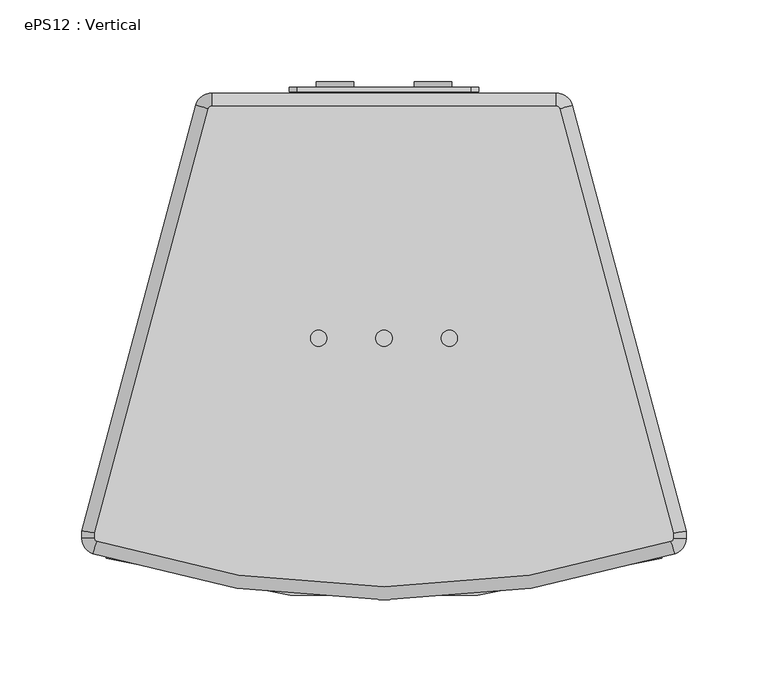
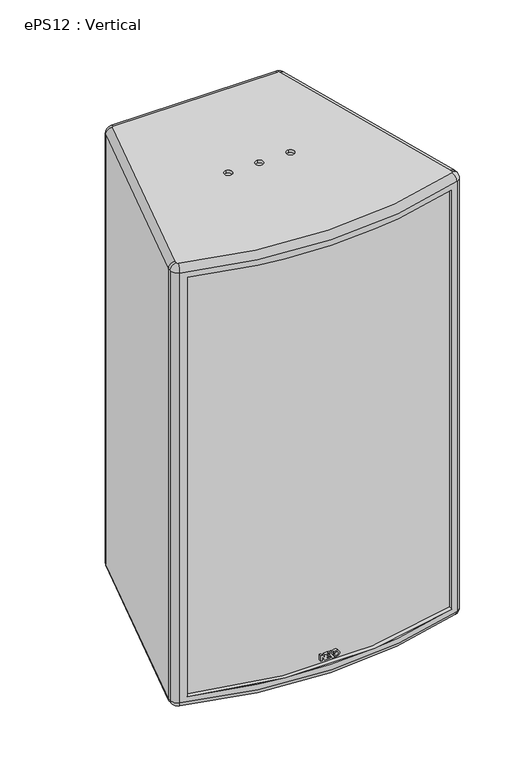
"""IFC4 building model written with IfcOpenShell, lengths in millimetres: proxy geometry, ePS12 : Vertical."""

from ifc_helpers import new_model, si_unit, point, frame, frame_2d, origin, place, context, project, spatial, polyline, circle_curve, ellipse_curve, trimmed, segment, composite_curve, outline, extrude, source, transform, mapped, element, save
from ifc_brep_helpers import plane_surface, cylinder_surface, revolved_surface, advanced_brep


def eps12_vertical_731aaa63(model_context):
    return source(origin(), model_context, "Body", "SolidModel", [
        extrude(outline(polyline([(-270.5590531, -11.9363528), (-277.8388202, -11.9363528), (-277.8388202, -10.0439855), (-273.6734899, -10.0439855), (-277.8388202, -7.2688886), (-277.8388202, -0.4179789), (-275.963849, 0.9005934), (-274.3643156, -0.1627837), (-276.2361557, -1.5323263), (-276.2361557, -4.5659556), (-274.9818684, -4.5659556), (-274.9818684, -2.2828427), (-273.3791381, -2.2828427), (-273.3791381, -4.5659556), (-272.1626349, -4.5659556), (-272.1626349, -2.1588809), (-271.3626349, -2.1588809), (-270.5599046, -2.6925396), (-270.5599046, -6.9609157), (-275.0099607, -6.9706073), (-270.5590531, -9.9098734), (-270.5590531, -11.9363528)])), frame((0.0, -157.930519, 0.0), z_axis=(0.0, 1.0, 0.0), x_axis=(0.0, 0.0, 1.0)), (0.0, 0.0, 1.0), 3.5087945),
        extrude(outline(polyline([(-270.5590531, -2.0512245), (-278.8, 3.4273947), (-278.8, 5.6205974), (-270.5590531, 0.1419782), (-270.5590531, -2.0512245)])), frame((0.0, -157.930519, 0.0), z_axis=(0.0, 1.0, 0.0), x_axis=(0.0, 0.0, 1.0)), (0.0, 0.0, 1.0), 3.5087945),
        extrude(outline(polyline([(-270.5590531, 4.6894095), (-270.5590531, 2.362619), (-271.8270101, 1.6148247), (-273.457904, 2.6990504), (-270.5590531, 4.6894095)])), frame((0.0, -157.930519, 0.0), z_axis=(0.0, 1.0, 0.0), x_axis=(0.0, 0.0, 1.0)), (0.0, 0.0, 1.0), 3.5087945),
        extrude(outline(composite_curve([segment(trimmed(circle_curve(frame_2d((-274.2298911, 8.0750207)), 3.9406238), [point((-274.2298911, 4.1343969))], [point((-274.2298911, 12.0156446))], False, "CARTESIAN"), True, "CONTINUOUS"), segment(trimmed(circle_curve(frame_2d((-274.2298911, 8.0750207)), 3.9406238), [point((-274.2298911, 12.0156446))], [point((-274.2298911, 4.1343969))], False, "CARTESIAN"), True, "CONTINUOUS")], self_intersect=False), holes=[composite_curve([segment(trimmed(circle_curve(frame_2d((-274.2298911, 8.0750207)), 2.0681078), [point((-274.2298911, 6.0069129))], [point((-274.2298911, 10.1431285))], True, "CARTESIAN"), True, "CONTINUOUS"), segment(trimmed(circle_curve(frame_2d((-274.2298911, 8.0750207)), 2.0681078), [point((-274.2298911, 10.1431285))], [point((-274.2298911, 6.0069129))], True, "CARTESIAN"), True, "CONTINUOUS")], self_intersect=False)]), frame((0.0, -157.930519, 0.0), z_axis=(0.0, 1.0, 0.0), x_axis=(0.0, 0.0, 1.0)), (0.0, 0.0, 1.0), 3.5087945),
        extrude(outline(composite_curve([segment(trimmed(circle_curve(frame_2d((-262.5, 30.0)), 11.4515227), [point((-262.5, 41.4515227))], [point((-262.5, 18.5484773))], False, "CARTESIAN"), True, "CONTINUOUS"), segment(trimmed(circle_curve(frame_2d((-262.5, 30.0)), 11.4515227), [point((-262.5, 18.5484773))], [point((-262.5, 41.4515227))], False, "CARTESIAN"), True, "CONTINUOUS")], self_intersect=False), holes=[composite_curve([segment(trimmed(circle_curve(frame_2d((-262.5, 30.0)), 5.0), [point((-262.5, 35.0))], [point((-262.5, 25.0))], True, "CARTESIAN"), True, "CONTINUOUS"), segment(trimmed(circle_curve(frame_2d((-262.5, 30.0)), 5.0), [point((-262.5, 25.0))], [point((-262.5, 35.0))], True, "CARTESIAN"), True, "CONTINUOUS")], self_intersect=False)]), frame((0.0, 153.5947354, 0.0), z_axis=(0.0, 1.0, 0.0), x_axis=(0.0, 0.0, 1.0)), (0.0, 0.0, 1.0), 3.4052646),
        extrude(outline(composite_curve([segment(trimmed(circle_curve(frame_2d((-262.5, -30.0)), 11.4515227), [point((-262.5, -18.5484773))], [point((-262.5, -41.4515227))], False, "CARTESIAN"), True, "CONTINUOUS"), segment(trimmed(circle_curve(frame_2d((-262.5, -30.0)), 11.4515227), [point((-262.5, -41.4515227))], [point((-262.5, -18.5484773))], False, "CARTESIAN"), True, "CONTINUOUS")], self_intersect=False), holes=[composite_curve([segment(trimmed(circle_curve(frame_2d((-262.5, -30.0)), 5.0), [point((-262.5, -25.0))], [point((-262.5, -35.0))], True, "CARTESIAN"), True, "CONTINUOUS"), segment(trimmed(circle_curve(frame_2d((-262.5, -30.0)), 5.0), [point((-262.5, -35.0))], [point((-262.5, -25.0))], True, "CARTESIAN"), True, "CONTINUOUS")], self_intersect=False)]), frame((0.0, 153.5947354, 0.0), z_axis=(0.0, 1.0, 0.0), x_axis=(0.0, 0.0, 1.0)), (0.0, 0.0, 1.0), 3.4052646),
        extrude(outline(composite_curve([segment(polyline([(-243.5, 53.0), (-243.5, -53.0)]), True, "CONTINUOUS"), segment(trimmed(circle_curve(frame_2d((-248.5, -53.0)), 5.0), [point((-243.5, -53.0))], [point((-248.5, -58.0))], False, "CARTESIAN"), True, "CONTINUOUS"), segment(polyline([(-248.5, -58.0), (-276.5, -58.0)]), True, "CONTINUOUS"), segment(trimmed(circle_curve(frame_2d((-276.5, -53.0)), 5.0), [point((-276.5, -58.0))], [point((-281.5, -53.0))], False, "CARTESIAN"), True, "CONTINUOUS"), segment(polyline([(-281.5, -53.0), (-281.5, 53.0)]), True, "CONTINUOUS"), segment(trimmed(circle_curve(frame_2d((-276.5, 53.0)), 5.0), [point((-281.5, 53.0))], [point((-276.5, 58.0))], False, "CARTESIAN"), True, "CONTINUOUS"), segment(polyline([(-276.5, 58.0), (-248.5, 58.0)]), True, "CONTINUOUS"), segment(trimmed(circle_curve(frame_2d((-248.5, 53.0)), 5.0), [point((-248.5, 58.0))], [point((-243.5, 53.0))], False, "CARTESIAN"), True, "CONTINUOUS")], self_intersect=False)), frame((0.0, 151.0947354, 0.0), z_axis=(0.0, 1.0, 0.0), x_axis=(0.0, 0.0, 1.0)), (0.0, 0.0, 1.0), 2.5),
        advanced_brep(
        [(107.4481982, 140.4698959, 300.0), (105.5163465, 141.9522578, 300.0), (-105.5163465, 141.9522578, 300.0), (-107.4481982, 140.4698959, 300.0), (-177.0, -119.1009622, 300.0), (-177.0, -122.3259262, 300.0), (-175.6180478, -124.2280348, 300.0), (175.6180478, -124.2280348, 300.0), (177.0, -122.3259262, 300.0), (177.0, -119.1009622, 300.0), (0.0, -5.0, 300.0), (0.0, 5.0, 300.0), (-40.0, -5.0, 300.0), (-40.0, 5.0, 300.0), (40.0, -5.0, 300.0), (40.0, 5.0, 300.0), (105.5163465, 141.9522578, -300.0), (107.4481982, 140.4698959, -300.0), (177.0, -119.1009622, -300.0), (177.0, -122.3259262, -300.0), (175.6180478, -124.2280348, -300.0), (-175.6180478, -124.2280348, -300.0), (-177.0, -122.3259262, -300.0), (-177.0, -119.1009622, -300.0), (-107.4481982, 140.4698959, -300.0), (-105.5163465, 141.9522578, -300.0), (0.0, 5.0, -300.0), (0.0, -5.0, -300.0), (-40.0, 5.0, -300.0), (-40.0, -5.0, -300.0), (40.0, 5.0, -300.0), (40.0, -5.0, -300.0), (0.0, 5.0, 296.0), (0.0, -5.0, 296.0), (-40.0, 5.0, 296.0), (-40.0, -5.0, 296.0), (40.0, 5.0, 296.0), (40.0, -5.0, 296.0), (-170.0, -134.3995103, 285.0), (-170.0, -129.2156738, 285.0), (170.0, -129.2156738, 285.0), (170.0, -134.3995103, 285.0), (170.0, -134.3995103, -285.0), (170.0, -129.2156738, -285.0), (-170.0, -129.2156738, -285.0), (-170.0, -134.3995103, -285.0), (0.0, 5.0, -296.0), (0.0, -5.0, -296.0), (-40.0, 5.0, -296.0), (-40.0, -5.0, -296.0), (40.0, 5.0, -296.0), (40.0, -5.0, -296.0), (-29.3432823, 145.0, 0.0), (-40.6566026, 145.0, 0.0), (40.6567177, 145.0, 0.0), (29.3433974, 145.0, 0.0), (-29.3432823, 145.0, 70.0), (-40.6566026, 145.0, 70.0), (-40.6566026, 149.9522578, 0.0), (-29.3432823, 149.9522578, 0.0), (29.3433974, 149.9522578, 0.0), (40.6567177, 149.9522578, 0.0), (-105.5163465, 149.9522578, 292.0), (105.5163465, 149.9522578, 292.0), (105.5163465, 149.9522578, -292.0000078), (-105.5163465, 149.9522578, -292.0), (-40.6566026, 149.9522578, 70.0), (-29.3432823, 149.9522578, 70.0), (-115.1756048, 142.5404482, 292.0), (-115.1756048, 142.5404482, -292.0), (-185.0, -118.0477422, 292.0), (-185.0, -118.0477422, -292.0), (-185.0, -122.3259262, 292.0), (-185.0, -122.3259262, -292.0), (178.0902391, -131.8364689, 292.0), (-178.0902391, -131.8364689, 292.0), (-178.0902391, -131.8364689, -292.0000037), (178.0902391, -131.8364689, -292.0), (185.0, -118.0477422, 292.0), (185.0, -122.3259262, 292.0), (185.0, -122.3259262, -292.0), (185.0, -118.0477422, -292.0), (115.1756048, 142.5404482, 292.0), (115.1756048, 142.5404482, -292.0)],
        [
            (0, 1, circle_curve(frame((105.5163465, 139.9522578, 300.0), z_axis=(0.0, 0.0, 1.0), x_axis=(0.0, 1.0, 0.0)), 2.0)),
            (1, 2),
            (2, 3, circle_curve(frame((-105.5163465, 139.9522578, 300.0), z_axis=(0.0, 0.0, 1.0), x_axis=(-0.9659258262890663, 0.2588190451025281, 0.0)), 2.0)),
            (3, 4),
            (4, 5),
            (5, 6, circle_curve(frame((-175.0, -122.3259262, 300.0), z_axis=(0.0, 0.0, 1.0), x_axis=(-0.3090239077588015, -0.9510542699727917, 0.0)), 2.0)),
            (6, 7, circle_curve(frame((0.0, 416.2553714, 300.0), z_axis=(0.0, 0.0, 1.0), x_axis=(0.309023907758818, -0.9510542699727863, 0.0)), 568.2992267)),
            (7, 8, circle_curve(frame((175.0, -122.3259262, 300.0), z_axis=(0.0, 0.0, 1.0), x_axis=(1.0, 0.0, 0.0)), 2.0)),
            (8, 9),
            (9, 0),
            (10, 11, circle_curve(frame((0.0, 0.0, 300.0), z_axis=(0.0, 0.0, -1.0), x_axis=(0.0, -1.0, 0.0)), 5.0)),
            (11, 10, circle_curve(frame((0.0, 0.0, 300.0), z_axis=(0.0, 0.0, -1.0), x_axis=(0.0, -1.0, 0.0)), 5.0)),
            (12, 13, circle_curve(frame((-40.0, 0.0, 300.0), z_axis=(0.0, 0.0, -1.0), x_axis=(0.0, -1.0, 0.0)), 5.0)),
            (13, 12, circle_curve(frame((-40.0, 0.0, 300.0), z_axis=(0.0, 0.0, -1.0), x_axis=(0.0, -1.0, 0.0)), 5.0)),
            (14, 15, circle_curve(frame((40.0, 0.0, 300.0), z_axis=(0.0, 0.0, -1.0), x_axis=(0.0, -1.0, 0.0)), 5.0)),
            (15, 14, circle_curve(frame((40.0, 0.0, 300.0), z_axis=(0.0, 0.0, -1.0), x_axis=(0.0, -1.0, 0.0)), 5.0)),
            (16, 17, circle_curve(frame((105.5163465, 139.9522578, -300.0), z_axis=(0.0, 0.0, -1.0), x_axis=(0.0, 1.0, 0.0)), 2.0)),
            (17, 18),
            (18, 19),
            (19, 20, circle_curve(frame((175.0, -122.3259262, -300.0), z_axis=(0.0, 0.0, -1.0), x_axis=(1.0, 0.0, 0.0)), 2.0)),
            (20, 21, circle_curve(frame((0.0, 416.2553714, -300.0), z_axis=(0.0, 0.0, -1.0), x_axis=(0.309023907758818, -0.9510542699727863, 0.0)), 568.2992267)),
            (21, 22, circle_curve(frame((-175.0, -122.3259262, -300.0), z_axis=(0.0, 0.0, -1.0), x_axis=(-0.3090239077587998, -0.9510542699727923, 0.0)), 2.0)),
            (22, 23),
            (23, 24),
            (24, 25, circle_curve(frame((-105.5163465, 139.9522578, -300.0), z_axis=(0.0, 0.0, -1.0), x_axis=(-0.9659258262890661, 0.258819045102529, 0.0)), 2.0)),
            (25, 16),
            (26, 27, circle_curve(frame((0.0, 0.0, -300.0), z_axis=(0.0, 0.0, 1.0), x_axis=(0.0, -1.0, 0.0)), 5.0)),
            (27, 26, circle_curve(frame((0.0, 0.0, -300.0), z_axis=(0.0, 0.0, 1.0), x_axis=(0.0, -1.0, 0.0)), 5.0)),
            (28, 29, circle_curve(frame((-40.0, 0.0, -300.0), z_axis=(0.0, 0.0, 1.0), x_axis=(0.0, -1.0, 0.0)), 5.0)),
            (29, 28, circle_curve(frame((-40.0, 0.0, -300.0), z_axis=(0.0, 0.0, 1.0), x_axis=(0.0, -1.0, 0.0)), 5.0)),
            (30, 31, circle_curve(frame((40.0, 0.0, -300.0), z_axis=(0.0, 0.0, 1.0), x_axis=(0.0, -1.0, 0.0)), 5.0)),
            (31, 30, circle_curve(frame((40.0, 0.0, -300.0), z_axis=(0.0, 0.0, 1.0), x_axis=(0.0, -1.0, 0.0)), 5.0)),
            (32, 33, circle_curve(frame((0.0, 0.0, 296.0), z_axis=(0.0, 0.0, 1.0), x_axis=(0.0, -1.0, 0.0)), 5.0)),
            (33, 32, circle_curve(frame((0.0, 0.0, 296.0), z_axis=(0.0, 0.0, 1.0), x_axis=(0.0, -1.0, 0.0)), 5.0)),
            (34, 35, circle_curve(frame((-40.0, 0.0, 296.0), z_axis=(0.0, 0.0, 1.0), x_axis=(0.0, -1.0, 0.0)), 5.0)),
            (35, 34, circle_curve(frame((-40.0, 0.0, 296.0), z_axis=(0.0, 0.0, 1.0), x_axis=(0.0, -1.0, 0.0)), 5.0)),
            (36, 37, circle_curve(frame((40.0, 0.0, 296.0), z_axis=(0.0, 0.0, 1.0), x_axis=(0.0, -1.0, 0.0)), 5.0)),
            (37, 36, circle_curve(frame((40.0, 0.0, 296.0), z_axis=(0.0, 0.0, 1.0), x_axis=(0.0, -1.0, 0.0)), 5.0)),
            (32, 11),
            (10, 33),
            (34, 13),
            (12, 35),
            (36, 15),
            (14, 37),
            (38, 39),
            (39, 40, circle_curve(frame((0.0, 422.7564106, 285.0), z_axis=(0.0, 0.0, 1.0), x_axis=(1.0, 0.0, 0.0)), 577.5579469)),
            (40, 41),
            (41, 38, circle_curve(frame((0.0, 416.2553714, 285.0), z_axis=(0.0, 0.0, -1.0), x_axis=(1.0, 0.0, 0.0)), 576.2992267)),
            (42, 43),
            (43, 44, circle_curve(frame((0.0, 422.7564106, -285.0), z_axis=(0.0, 0.0, -1.0), x_axis=(1.0, 0.0, 0.0)), 577.5579469)),
            (44, 45),
            (45, 42, circle_curve(frame((0.0, 416.2553714, -285.0), z_axis=(0.0, 0.0, 1.0), x_axis=(1.0, 0.0, 0.0)), 576.2992267)),
            (46, 47, circle_curve(frame((0.0, 0.0, -296.0), z_axis=(0.0, 0.0, -1.0), x_axis=(0.0, -1.0, 0.0)), 5.0)),
            (47, 46, circle_curve(frame((0.0, 0.0, -296.0), z_axis=(0.0, 0.0, -1.0), x_axis=(0.0, -1.0, 0.0)), 5.0)),
            (48, 49, circle_curve(frame((-40.0, 0.0, -296.0), z_axis=(0.0, 0.0, -1.0), x_axis=(0.0, -1.0, 0.0)), 5.0)),
            (49, 48, circle_curve(frame((-40.0, 0.0, -296.0), z_axis=(0.0, 0.0, -1.0), x_axis=(0.0, -1.0, 0.0)), 5.0)),
            (50, 51, circle_curve(frame((40.0, 0.0, -296.0), z_axis=(0.0, 0.0, -1.0), x_axis=(0.0, -1.0, 0.0)), 5.0)),
            (51, 50, circle_curve(frame((40.0, 0.0, -296.0), z_axis=(0.0, 0.0, -1.0), x_axis=(0.0, -1.0, 0.0)), 5.0)),
            (47, 27),
            (26, 46),
            (49, 29),
            (28, 48),
            (51, 31),
            (30, 50),
            (52, 53, circle_curve(frame((-34.9999424, 145.0, 0.0), z_axis=(0.0, 1.0, 0.0), x_axis=(-1.0, 0.0, 0.0)), 5.6566602)),
            (53, 52, circle_curve(frame((-34.9999424, 145.0, 0.0), z_axis=(0.0, 1.0, 0.0), x_axis=(-1.0, 0.0, 0.0)), 5.6566602)),
            (54, 55, circle_curve(frame((35.0000576, 145.0, 0.0), z_axis=(0.0, 1.0, 0.0), x_axis=(-1.0, 0.0, 0.0)), 5.6566602)),
            (55, 54, circle_curve(frame((35.0000576, 145.0, 0.0), z_axis=(0.0, 1.0, 0.0), x_axis=(-1.0, 0.0, 0.0)), 5.6566602)),
            (56, 57, circle_curve(frame((-34.9999424, 145.0, 70.0), z_axis=(0.0, 1.0, 0.0), x_axis=(-1.0, 0.0, 0.0)), 5.6566602)),
            (57, 56, circle_curve(frame((-34.9999424, 145.0, 70.0), z_axis=(0.0, 1.0, 0.0), x_axis=(-1.0, 0.0, 0.0)), 5.6566602)),
            (53, 58),
            (58, 59, circle_curve(frame((-34.9999424, 149.9522578, 0.0), z_axis=(0.0, 1.0, 0.0), x_axis=(-1.0, 0.0, 0.0)), 5.6566602)),
            (59, 52),
            (59, 58, circle_curve(frame((-34.9999424, 149.9522578, 0.0), z_axis=(0.0, 1.0, 0.0), x_axis=(-1.0, 0.0, 0.0)), 5.6566602)),
            (55, 60),
            (60, 61, circle_curve(frame((35.0000576, 149.9522578, 0.0), z_axis=(0.0, 1.0, 0.0), x_axis=(-1.0, 0.0, 0.0)), 5.6566602)),
            (61, 54),
            (61, 60, circle_curve(frame((35.0000576, 149.9522578, 0.0), z_axis=(0.0, 1.0, 0.0), x_axis=(-1.0, 0.0, 0.0)), 5.6566602)),
            (62, 63),
            (63, 64),
            (64, 65),
            (65, 62),
            (66, 67, circle_curve(frame((-34.9999424, 149.9522578, 70.0), z_axis=(0.0, -1.0, 0.0), x_axis=(-1.0, 0.0, 0.0)), 5.6566602)),
            (67, 66, circle_curve(frame((-34.9999424, 149.9522578, 70.0), z_axis=(0.0, -1.0, 0.0), x_axis=(-1.0, 0.0, 0.0)), 5.6566602)),
            (68, 62, circle_curve(frame((-105.5163465, 139.9522578, 292.0), z_axis=(0.0, 0.0, -1.0), x_axis=(1.0, 0.0, 0.0)), 10.0)),
            (65, 69, circle_curve(frame((-105.5163465, 139.9522578, -292.0), z_axis=(0.0, 0.0, 1.0), x_axis=(1.0, 0.0, 0.0)), 10.0)),
            (69, 68),
            (70, 68),
            (69, 71),
            (71, 70),
            (72, 70),
            (71, 73),
            (73, 72),
            (74, 75, circle_curve(frame((0.0, 416.2553714, 292.0), z_axis=(0.0, 0.0, -1.0), x_axis=(1.0, 0.0, 0.0)), 576.2992267)),
            (75, 76),
            (76, 77, circle_curve(frame((0.0, 416.2553714, -292.0), z_axis=(0.0, 0.0, 1.0), x_axis=(1.0, 0.0, 0.0)), 576.2992267)),
            (77, 74),
            (41, 42),
            (45, 38),
            (78, 79),
            (79, 80),
            (80, 81),
            (81, 78),
            (82, 78),
            (81, 83),
            (83, 82),
            (63, 82, circle_curve(frame((105.5163465, 139.9522578, 292.0), z_axis=(0.0, 0.0, -1.0), x_axis=(1.0, 0.0, 0.0)), 10.0)),
            (83, 64, circle_curve(frame((105.5163465, 139.9522578, -292.0), z_axis=(0.0, 0.0, 1.0), x_axis=(1.0, 0.0, 0.0)), 10.0)),
            (56, 67),
            (66, 57),
            (40, 43),
            (39, 44),
            (75, 72, circle_curve(frame((-175.0, -122.3259262, 292.0), z_axis=(0.0, 0.0, -1.0), x_axis=(1.0, 0.0, 0.0)), 10.0)),
            (73, 76, circle_curve(frame((-175.0, -122.3259262, -292.0), z_axis=(0.0, 0.0, 1.0), x_axis=(1.0, 0.0, 0.0)), 10.0)),
            (79, 74, circle_curve(frame((175.0, -122.3259262, 292.0), z_axis=(0.0, 0.0, -1.0), x_axis=(1.0, 0.0, 0.0)), 10.0)),
            (77, 80, circle_curve(frame((175.0, -122.3259262, -292.0), z_axis=(0.0, 0.0, 1.0), x_axis=(1.0, 0.0, 0.0)), 10.0)),
            (0, 82, circle_curve(frame((107.4481982, 140.4698959, 292.0), z_axis=(-0.2588190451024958, 0.9659258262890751, 0.0), x_axis=(0.9659258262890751, 0.2588190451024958, 0.0)), 8.0)),
            (63, 1, circle_curve(frame((105.5163465, 141.9522578, 292.0), z_axis=(1.0, 0.0, 0.0), x_axis=(0.0, 1.0, 0.0)), 8.0)),
            (9, 78, ellipse_curve(frame((177.0, -119.1009622, 292.0), z_axis=(-0.13052619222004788, 0.9914448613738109, 0.0), x_axis=(0.9914448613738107, 0.1305261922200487, 0.0)), 8.0690317, 8.0)),
            (8, 79, circle_curve(frame((177.0, -122.3259262, 292.0), z_axis=(0.0, 1.0, 0.0), x_axis=(1.0, 0.0, 0.0)), 8.0)),
            (7, 74, circle_curve(frame((175.6180478, -124.2280348, 292.0), z_axis=(0.951054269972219, 0.3090239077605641, 0.0), x_axis=(0.3090239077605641, -0.951054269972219, 0.0)), 8.0)),
            (6, 75, circle_curve(frame((-175.6180478, -124.2280348, 292.0), z_axis=(0.9510542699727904, -0.3090239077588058, 0.0), x_axis=(-0.3090239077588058, -0.9510542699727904, 0.0)), 8.0)),
            (5, 72, circle_curve(frame((-177.0, -122.3259262, 292.0), z_axis=(0.0, -1.0, 0.0), x_axis=(-1.0, 0.0, 0.0)), 8.0)),
            (4, 70, ellipse_curve(frame((-177.0, -119.1009622, 292.0), z_axis=(-0.13052619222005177, -0.9914448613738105, 0.0), x_axis=(-0.9914448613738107, 0.13052619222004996, 0.0)), 8.0690317, 8.0)),
            (3, 68, circle_curve(frame((-107.4481982, 140.4698959, 292.0), z_axis=(-0.2588190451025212, -0.9659258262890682, 0.0), x_axis=(-0.9659258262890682, 0.2588190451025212, 0.0)), 8.0)),
            (2, 62, circle_curve(frame((-105.5163465, 141.9522578, 292.0), z_axis=(-1.0, 0.0, 0.0), x_axis=(0.0, 1.0, 0.0)), 8.0)),
            (83, 17, circle_curve(frame((107.4481982, 140.4698959, -292.0), z_axis=(-0.25881904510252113, 0.9659258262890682, 0.0), x_axis=(0.9659258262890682, 0.25881904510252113, 0.0)), 8.0)),
            (16, 64, circle_curve(frame((105.5163465, 141.9522578, -292.0), z_axis=(1.0, 0.0, 0.0), x_axis=(0.0, 1.0, 0.0)), 8.0)),
            (81, 18, ellipse_curve(frame((177.0, -119.1009622, -292.0), z_axis=(-0.1305261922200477, 0.9914448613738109, 0.0), x_axis=(0.9914448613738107, 0.13052619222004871, 0.0)), 8.0690317, 8.0)),
            (80, 19, circle_curve(frame((177.0, -122.3259262, -292.0), z_axis=(0.0, 1.0, 0.0), x_axis=(1.0, 0.0, 0.0)), 8.0)),
            (77, 20, circle_curve(frame((175.6180478, -124.2280348, -292.0), z_axis=(0.951054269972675, 0.30902390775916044, 0.0), x_axis=(0.30902390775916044, -0.951054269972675, 0.0)), 8.0)),
            (76, 21, circle_curve(frame((-175.6180478, -124.2280348, -292.0), z_axis=(0.9510542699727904, -0.3090239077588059, 0.0), x_axis=(-0.3090239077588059, -0.9510542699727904, 0.0)), 8.0)),
            (73, 22, circle_curve(frame((-177.0, -122.3259262, -292.0), z_axis=(0.0, -0.9999999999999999, 0.0), x_axis=(-0.9999999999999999, 0.0, 0.0)), 8.0)),
            (71, 23, ellipse_curve(frame((-177.0, -119.1009622, -292.0), z_axis=(-0.13052619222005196, -0.9914448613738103, 0.0), x_axis=(-0.9914448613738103, 0.13052619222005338, 0.0)), 8.0690317, 8.0)),
            (69, 24, circle_curve(frame((-107.4481982, 140.4698959, -292.0), z_axis=(-0.2588190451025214, -0.9659258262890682, 0.0), x_axis=(-0.9659258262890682, 0.2588190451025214, 0.0)), 8.0)),
            (65, 25, circle_curve(frame((-105.5163465, 141.9522578, -292.0), z_axis=(-1.0, 0.0, 0.0), x_axis=(0.0, 1.0, 0.0)), 8.0)),
        ],
        [
            plane_surface(frame((-111.6724223, 149.9522578, 300.0), z_axis=(0.0, 0.0, 1.0), x_axis=(-1.0, 0.0, 0.0))),
            plane_surface(frame((-111.6724223, 149.9522578, -300.0), z_axis=(0.0, 0.0, -1.0), x_axis=(1.0, 0.0, 0.0))),
            plane_surface(frame((0.0, -5.0, 296.0), z_axis=(0.0, 0.0, 1.0), x_axis=(-1.0, 0.0, 0.0))),
            revolved_surface(polyline([(0.0, -5.0, 300.0), (0.0, -5.0, 296.0)]), (0.0, 0.0, 296.0), (0.0, 0.0, 1.0)),
            revolved_surface(polyline([(-40.0, -5.0, 300.0), (-40.0, -5.0, 296.0)]), (-40.0, 0.0, 300.0), (0.0, 0.0, 1.0)),
            revolved_surface(polyline([(40.0, -5.0, 300.0), (40.0, -5.0, 296.0)]), (40.0, 0.0, 300.0), (0.0, 0.0, 1.0)),
            plane_surface(frame((170.0, -134.3995103, 285.0), z_axis=(0.0, 0.0, -1.0), x_axis=(0.0, 1.0, 0.0))),
            plane_surface(frame((170.0, -134.3995103, -285.0), z_axis=(0.0, 0.0, 1.0), x_axis=(0.0, -1.0, 0.0))),
            plane_surface(frame((0.0, -5.0, -296.0), z_axis=(0.0, 0.0, -1.0), x_axis=(1.0, 0.0, 0.0))),
            revolved_surface(polyline([(0.0, -5.0, -296.0), (0.0, -5.0, -300.0)]), (0.0, 0.0, -304.0), (0.0, 0.0, 1.0)),
            revolved_surface(polyline([(-40.0, -5.0, -296.0), (-40.0, -5.0, -300.0)]), (-40.0, 0.0, -300.0), (0.0, 0.0, 1.0)),
            revolved_surface(polyline([(40.0, -5.0, -296.0), (40.0, -5.0, -300.0)]), (40.0, 0.0, -300.0), (0.0, 0.0, 1.0)),
            plane_surface(frame((-40.6566026, 145.0, 0.0), z_axis=(0.0, 1.0, 0.0), x_axis=(0.0, 0.0, -1.0))),
            revolved_surface(polyline([(-40.6566026, 149.9522578, 0.0), (-40.6566026, 145.0, 0.0)]), (-34.9999424, 145.0, 0.0), (0.0, 1.0, 0.0)),
            revolved_surface(polyline([(29.343397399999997, 149.9522578, 0.0), (29.343397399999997, 145.0, 0.0)]), (35.0000576, 157.0, 0.0), (0.0, 1.0, 0.0)),
            plane_surface(frame((105.5163465, 149.9522578, 300.0), z_axis=(0.0, 1.0, 0.0), x_axis=(0.0, 0.0, -1.0))),
            cylinder_surface(frame((-105.5163465, 139.9522578, -300.0), z_axis=(0.0, 0.0, 1.0), x_axis=(1.0, 0.0, 0.0)), 10.0),
            plane_surface(frame((-115.1756048, 142.5404482, 300.0), z_axis=(-0.9659258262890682, 0.2588190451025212, 0.0), x_axis=(0.0, 0.0, -1.0))),
            plane_surface(frame((-185.0, -118.0477422, 300.0), z_axis=(-1.0, 0.0, 0.0), x_axis=(0.0, 0.0, -1.0))),
            cylinder_surface(frame((0.0, 416.2553714, -300.0), z_axis=(0.0, 0.0, 1.0), x_axis=(1.0, 0.0, 0.0)), 576.2992267),
            plane_surface(frame((185.0, -122.3259262, 300.0), z_axis=(1.0, 0.0, 0.0), x_axis=(0.0, 0.0, -1.0))),
            plane_surface(frame((185.0, -118.0477422, 300.0), z_axis=(0.9659258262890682, 0.2588190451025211, 0.0), x_axis=(0.0, 0.0, -1.0))),
            cylinder_surface(frame((105.5163465, 139.9522578, -300.0), z_axis=(0.0, 0.0, 1.0), x_axis=(1.0, 0.0, 0.0)), 10.0),
            revolved_surface(polyline([(-40.6566026, 149.9522578, 70.0), (-40.6566026, 145.0, 70.0)]), (-34.9999424, 157.0, 70.0), (0.0, 1.0, 0.0)),
            plane_surface(frame((170.0, -134.3995103, 285.0), z_axis=(-1.0, 0.0, 0.0), x_axis=(0.0, 0.0, -1.0))),
            cylinder_surface(frame((0.0, 422.7564106, -285.0), z_axis=(0.0, 0.0, -1.0), x_axis=(1.0, 0.0, 0.0)), 577.5579469),
            plane_surface(frame((-170.0, -129.2156738, 285.0), z_axis=(1.0, 0.0, 0.0), x_axis=(0.0, 0.0, -1.0))),
            cylinder_surface(frame((-175.0, -122.3259262, -300.0), z_axis=(0.0, 0.0, 1.0), x_axis=(1.0, 0.0, 0.0)), 10.0),
            cylinder_surface(frame((175.0, -122.3259262, -300.0), z_axis=(0.0, 0.0, 1.0), x_axis=(1.0, 0.0, 0.0)), 10.0),
            revolved_surface(trimmed(ellipse_curve(frame((105.5163465, 141.9522578, 292.0), z_axis=(-1.0, 0.0, 0.0), x_axis=(0.0, 1.0, 0.0)), 8.0, 8.0), [point((105.5163465, 141.9522578, 300.0))], [point((105.5163465, 149.9522578, 292.0))], True, "CARTESIAN"), (105.5163465, 139.9522578, 300.0), (0.0, 0.0, -1.0)),
            cylinder_surface(frame((107.4481982, 140.4698959, 292.0), z_axis=(0.25881904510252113, -0.9659258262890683, 0.0), x_axis=(0.9659258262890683, 0.25881904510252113, 0.0)), 8.0),
            cylinder_surface(frame((177.0, -118.0477422, 292.0), z_axis=(0.0, -1.0, 0.0), x_axis=(1.0, 0.0, 0.0)), 8.0),
            revolved_surface(trimmed(ellipse_curve(frame((177.0, -122.3259262, 292.0), z_axis=(0.0, 1.0, 0.0), x_axis=(1.0, 0.0, 0.0)), 8.0, 8.0), [point((177.0, -122.3259262, 300.0))], [point((185.0, -122.3259262, 292.0))], True, "CARTESIAN"), (175.0, -122.3259262, 300.0), (0.0, 0.0, -1.0)),
            revolved_surface(trimmed(ellipse_curve(frame((175.6180478, -124.2280348, 292.0), z_axis=(0.9510542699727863, 0.3090239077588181, 0.0), x_axis=(0.3090239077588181, -0.9510542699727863, 0.0)), 8.0, 8.0), [point((175.6180478, -124.2280348, 300.0))], [point((178.0902391, -131.8364689, 292.0))], True, "CARTESIAN"), (0.0, 416.2553714, 300.0), (0.0, 0.0, -1.0)),
            revolved_surface(trimmed(ellipse_curve(frame((-175.6180478, -124.2280348, 292.0), z_axis=(0.9510542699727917, -0.3090239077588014, 0.0), x_axis=(-0.3090239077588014, -0.9510542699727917, 0.0)), 8.0, 8.0), [point((-175.6180478, -124.2280348, 300.0))], [point((-178.0902391, -131.8364689, 292.0))], True, "CARTESIAN"), (-175.0, -122.3259262, 300.0), (0.0, 0.0, -1.0)),
            cylinder_surface(frame((-177.0, -122.3259262, 292.0), z_axis=(0.0, 1.0, 0.0), x_axis=(-1.0, 0.0, 0.0)), 8.0),
            cylinder_surface(frame((-177.2725934, -120.1182946, 292.0), z_axis=(0.2588190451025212, 0.9659258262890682, 0.0), x_axis=(-0.9659258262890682, 0.2588190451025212, 0.0)), 8.0),
            revolved_surface(trimmed(ellipse_curve(frame((-107.4481982, 140.4698959, 292.0), z_axis=(-0.25881904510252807, -0.9659258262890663, 0.0), x_axis=(-0.9659258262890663, 0.25881904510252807, 0.0)), 8.0, 8.0), [point((-107.4481982, 140.4698959, 300.0))], [point((-115.1756048, 142.5404482, 292.0))], True, "CARTESIAN"), (-105.5163465, 139.9522578, 300.0), (0.0, 0.0, -1.0)),
            cylinder_surface(frame((-105.5163465, 141.9522578, 292.0), z_axis=(1.0, 0.0, 0.0), x_axis=(0.0, 1.0, 0.0)), 8.0),
            revolved_surface(trimmed(ellipse_curve(frame((105.5163465, 141.9522578, -292.0), z_axis=(-1.0, 0.0, 0.0), x_axis=(0.0, 1.0, 0.0)), 8.0, 8.0), [point((105.5163465, 149.9522578, -292.0))], [point((105.5163465, 141.9522578, -300.0))], True, "CARTESIAN"), (105.5163465, 139.9522578, -300.0), (0.0, 0.0, -1.0)),
            cylinder_surface(frame((107.4481982, 140.4698959, -292.0), z_axis=(0.2588190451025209, -0.9659258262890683, 0.0), x_axis=(0.9659258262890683, 0.2588190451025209, 0.0)), 8.0),
            cylinder_surface(frame((177.0, -118.0477422, -292.0), z_axis=(0.0, -1.0, 0.0), x_axis=(1.0, 0.0, 0.0)), 8.0),
            revolved_surface(trimmed(ellipse_curve(frame((177.0, -122.3259262, -292.0), z_axis=(0.0, 1.0, 0.0), x_axis=(1.0, 0.0, 0.0)), 8.0, 8.0), [point((185.0, -122.3259262, -292.0))], [point((177.0, -122.3259262, -300.0))], True, "CARTESIAN"), (175.0, -122.3259262, -300.0), (0.0, 0.0, -1.0)),
            revolved_surface(trimmed(ellipse_curve(frame((175.6180478, -124.2280348, -292.0), z_axis=(0.9510542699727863, 0.3090239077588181, 0.0), x_axis=(0.3090239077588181, -0.9510542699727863, 0.0)), 8.0, 8.0), [point((178.0902391, -131.8364689, -292.0))], [point((175.6180478, -124.2280348, -300.0))], True, "CARTESIAN"), (0.0, 416.2553714, -300.0), (0.0, 0.0, -1.0)),
            revolved_surface(trimmed(ellipse_curve(frame((-175.6180478, -124.2280348, -292.0), z_axis=(0.9510542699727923, -0.30902390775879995, 0.0), x_axis=(-0.30902390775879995, -0.9510542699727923, 0.0)), 8.0, 8.0), [point((-178.0902391, -131.8364689, -292.0))], [point((-175.6180478, -124.2280348, -300.0))], True, "CARTESIAN"), (-175.0, -122.3259262, -300.0), (0.0, 0.0, -1.0)),
            cylinder_surface(frame((-177.0, -122.3259262, -292.0), z_axis=(0.0, 1.0, 0.0), x_axis=(-1.0, 0.0, 0.0)), 8.0),
            cylinder_surface(frame((-177.2725934, -120.1182946, -292.0), z_axis=(0.2588190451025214, 0.9659258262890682, 0.0), x_axis=(-0.9659258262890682, 0.2588190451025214, 0.0)), 8.0),
            revolved_surface(trimmed(ellipse_curve(frame((-107.4481982, 140.4698959, -292.0), z_axis=(-0.2588190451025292, -0.9659258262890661, 0.0), x_axis=(-0.9659258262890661, 0.2588190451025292, 0.0)), 8.0, 8.0), [point((-115.1756048, 142.5404482, -292.0))], [point((-107.4481982, 140.4698959, -300.0))], True, "CARTESIAN"), (-105.5163465, 139.9522578, -300.0), (0.0, 0.0, -1.0)),
            cylinder_surface(frame((-105.5163465, 141.9522578, -292.0), z_axis=(1.0, 0.0, 0.0), x_axis=(0.0, 1.0, 0.0)), 8.0),
        ],
        [
            (0, [[1, 2, 3, 4, 5, 6, 7, 8, 9, 10], [11, 12], [13, 14], [15, 16]]),
            (1, [[17, 18, 19, 20, 21, 22, 23, 24, 25, 26], [27, 28], [29, 30], [31, 32]]),
            (2, [[33, 34]]),
            (2, [[35, 36]]),
            (2, [[37, 38]]),
            (3, [[-33, 39, -11, 40]]),
            (3, [[-34, -40, -12, -39]]),
            (4, [[-35, 41, -13, 42]]),
            (4, [[-36, -42, -14, -41]]),
            (5, [[-37, 43, -15, 44]]),
            (5, [[-38, -44, -16, -43]]),
            (6, [[45, 46, 47, 48]]),
            (7, [[49, 50, 51, 52]]),
            (8, [[53, 54]]),
            (8, [[55, 56]]),
            (8, [[57, 58]]),
            (9, [[-54, 59, -27, 60]]),
            (9, [[-53, -60, -28, -59]]),
            (10, [[-56, 61, -29, 62]]),
            (10, [[-55, -62, -30, -61]]),
            (11, [[-58, 63, -31, 64]]),
            (11, [[-57, -64, -32, -63]]),
            (12, [[65, 66]]),
            (12, [[67, 68]]),
            (12, [[69, 70]]),
            (13, [[-66, 71, 72, 73]]),
            (13, [[-65, -73, 74, -71]]),
            (14, [[-68, 75, 76, 77]]),
            (14, [[-67, -77, 78, -75]]),
            (15, [[79, 80, 81, 82], [-72, -74], [-76, -78], [83, 84]]),
            (16, [[85, -82, 86, 87]]),
            (17, [[88, -87, 89, 90]]),
            (18, [[91, -90, 92, 93]]),
            (19, [[94, 95, 96, 97], [-48, 98, -52, 99]]),
            (20, [[100, 101, 102, 103]]),
            (21, [[104, -103, 105, 106]]),
            (22, [[107, -106, 108, -80]]),
            (23, [[-69, 109, -83, 110]]),
            (23, [[-70, -110, -84, -109]]),
            (24, [[-47, 111, -49, -98]]),
            (25, [[-46, 112, -50, -111]]),
            (26, [[-45, -99, -51, -112]]),
            (27, [[113, -93, 114, -95]]),
            (28, [[115, -97, 116, -101]]),
            (29, [[117, -107, 118, -1]]),
            (30, [[-117, -10, 119, -104]]),
            (31, [[-119, -9, 120, -100]]),
            (32, [[-120, -8, 121, -115]]),
            (33, [[-121, -7, 122, -94]]),
            (34, [[-122, -6, 123, -113]]),
            (35, [[-123, -5, 124, -91]]),
            (36, [[-124, -4, 125, -88]]),
            (37, [[-125, -3, 126, -85]]),
            (38, [[-118, -79, -126, -2]]),
            (39, [[127, -17, 128, -108]]),
            (40, [[-127, -105, 129, -18]]),
            (41, [[-129, -102, 130, -19]]),
            (42, [[-130, -116, 131, -20]]),
            (43, [[-131, -96, 132, -21]]),
            (44, [[-132, -114, 133, -22]]),
            (45, [[-133, -92, 134, -23]]),
            (46, [[-134, -89, 135, -24]]),
            (47, [[-135, -86, 136, -25]]),
            (48, [[-128, -26, -136, -81]]),
        ],
    ),
    ])


if __name__ == "__main__":
    model = new_model("IFC4")
    model_context = context("Model", 3, world=origin())
    ifc_project = project(units=[si_unit("LENGTHUNIT", "METRE", prefix="MILLI")], contexts=[model_context])
    site = spatial("IfcSite", under=ifc_project)
    building = spatial("IfcBuilding", under=site)
    placement = place(None, origin())
    eps12_vertical_shape = eps12_vertical_731aaa63(model_context)
    element("IfcBuildingElementProxy", 1, Name="ePS12 : Vertical", ObjectType="ePS12 : Vertical", at=placement, inside=building, context=model_context, shape_type="MappedRepresentation", body=[
        mapped(eps12_vertical_shape, transform((0.0, 0.0, 0.0), x_axis=(1.0, 0.0, 0.0), y_axis=(0.0, 1.0, 0.0), z_axis=(0.0, 0.0, 1.0))),
    ])
    save(model, "model.ifc")
